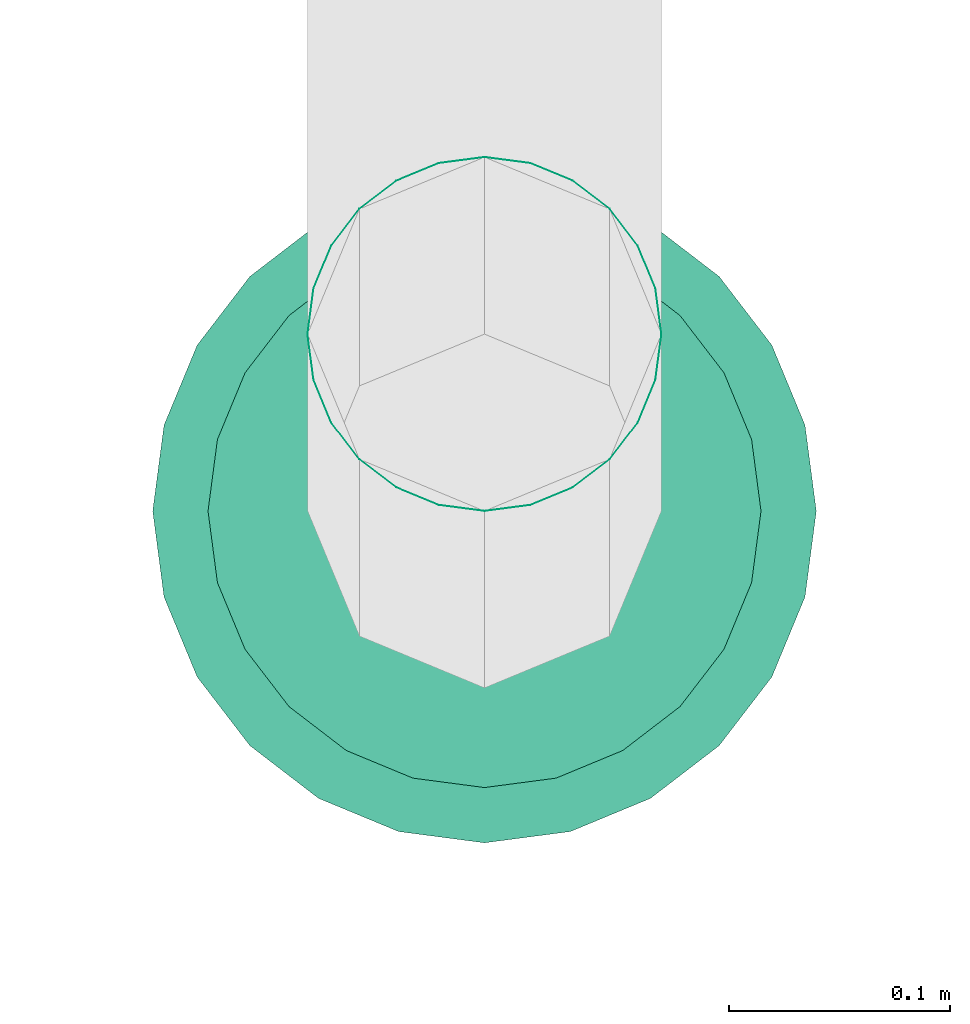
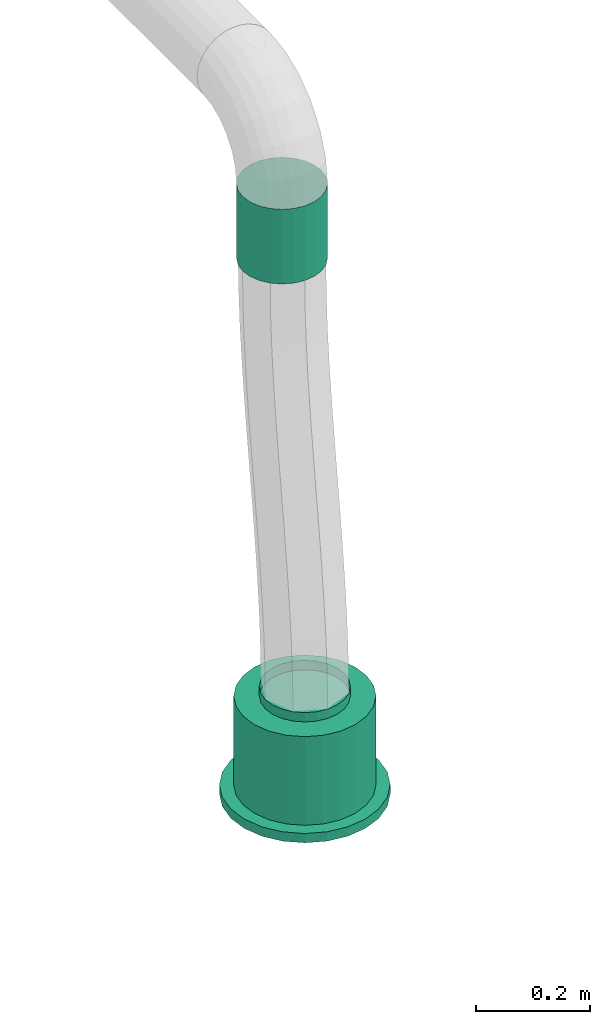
# One storey, part 55 of 374: 1 flow segment, 1 flow terminal.
"""IFC2X3 building model written with IfcOpenShell, lengths in metres."""

from ifc_helpers import new_model, si_unit, direction, origin, place, context, subcontext, project, spatial, open_shell, surface_model, source, transform, mapped, element, save


model = new_model("IFC2X3")

# Units and contexts
model_context = context("Model", 3, precision=1e-05, world=origin(), true_north=direction((-0.4480736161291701, 0.8939966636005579)))
body_context = subcontext(model_context, "Body", "Model", "MODEL_VIEW")
ifc_project = project(units=[si_unit("LENGTHUNIT", "METRE"), si_unit("AREAUNIT", "SQUARE_METRE"), si_unit("VOLUMEUNIT", "CUBIC_METRE"), si_unit("PLANEANGLEUNIT", "RADIAN"), si_unit("THERMODYNAMICTEMPERATUREUNIT", "KELVIN"), si_unit("MASSUNIT", "GRAM", prefix="KILO"), si_unit("TIMEUNIT", "SECOND")], contexts=[model_context])

# Site, building, storey
site_placement = place(None, origin())
site = spatial("IfcSite", under=ifc_project, at=site_placement, Name="Site 1", CompositionType="ELEMENT")
building_placement = place(site_placement, origin())
building = spatial("IfcBuilding", under=site, at=building_placement, Name="Undefined", CompositionType="ELEMENT")
storey_placement = place(building_placement, origin())
storey = spatial("IfcBuildingStorey", under=building, at=storey_placement, Name="Rez de chauss\x8ee", CompositionType="ELEMENT", Elevation=0.0)

# Flow terminal
shared_shape_1 = source(origin(), body_context, "Body", "SurfaceModel", [
    surface_model("IfcFaceBasedSurfaceModel", [(0.0, 0.0, 0.0), (0.03915785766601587, 0.0, 0.0), (0.03915785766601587, 0.020000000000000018, 0.0), (3.552713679e-15, 0.020000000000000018, 0.0), (0.07698144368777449, 0.0, -0.010134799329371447), (0.07698144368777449, 0.020000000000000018, -0.010134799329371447), (0.11089314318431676, 0.0, -0.02971372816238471), (0.11089314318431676, 0.020000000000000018, -0.02971372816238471), (0.13858192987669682, 0.0, -0.05740251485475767), (0.13858192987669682, 0.020000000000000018, -0.05740251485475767), (0.15816085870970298, 0.0, -0.09131421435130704), (0.15816085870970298, 0.020000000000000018, -0.09131421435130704), (0.16829565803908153, 0.0, -0.12913780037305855), (0.16829565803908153, 0.020000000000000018, -0.12913780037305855), (0.16829565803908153, 0.0, -0.16829565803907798), (0.16829565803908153, 0.020000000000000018, -0.16829565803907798), (0.15816085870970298, 0.0, -0.20611924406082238), (0.15816085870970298, 0.020000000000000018, -0.20611924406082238), (0.13858192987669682, 0.0, -0.24003094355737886), (0.13858192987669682, 0.020000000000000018, -0.24003094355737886), (0.11089314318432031, 0.0, -0.2677197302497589), (0.11089314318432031, 0.020000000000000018, -0.2677197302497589), (0.07698144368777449, 0.0, -0.2872986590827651), (0.07698144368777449, 0.020000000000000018, -0.2872986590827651), (0.039157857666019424, 0.0, -0.29743345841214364), (0.039157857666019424, 0.020000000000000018, -0.29743345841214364), (3.552713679e-15, 0.0, -0.29743345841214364), (3.552713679e-15, 0.020000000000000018, -0.29743345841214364), (-0.03782358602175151, 0.0, -0.2872986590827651), (-0.03782358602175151, 0.020000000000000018, -0.2872986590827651), (-0.07173528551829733, 0.0, -0.2677197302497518), (-0.07173528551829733, 0.020000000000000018, -0.2677197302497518), (-0.0994240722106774, 0.0, -0.24003094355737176), (-0.0994240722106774, 0.020000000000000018, -0.24003094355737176), (-0.11900300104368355, 0.0, -0.2061192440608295), (-0.11900300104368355, 0.020000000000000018, -0.2061192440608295), (-0.1291378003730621, 0.0, -0.16829565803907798), (-0.1291378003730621, 0.020000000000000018, -0.16829565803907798), (-0.1291378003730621, 0.0, -0.12913780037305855), (-0.1291378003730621, 0.020000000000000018, -0.12913780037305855), (-0.11900300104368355, 0.0, -0.09131421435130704), (-0.11900300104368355, 0.020000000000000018, -0.09131421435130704), (-0.0994240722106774, 0.0, -0.05740251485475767), (-0.0994240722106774, 0.020000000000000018, -0.05740251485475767), (-0.07173528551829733, 0.0, -0.029713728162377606), (-0.07173528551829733, 0.020000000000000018, -0.029713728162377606), (-0.03782358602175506, 0.0, -0.010134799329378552), (-0.03782358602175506, 0.020000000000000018, -0.010134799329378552), (0.019578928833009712, 0.0, -0.14871672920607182), (0.019578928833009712, 0.020000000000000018, -0.14871672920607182), (0.003263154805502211, 0.020000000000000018, -0.02478612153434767), (0.035894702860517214, 0.020000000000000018, -0.02478612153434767), (0.035894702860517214, 0.20999999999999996, -0.02478612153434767), (0.003263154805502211, 0.20999999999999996, -0.02478612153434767), (0.06741435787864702, 0.020000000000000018, -0.033231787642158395), (0.06741435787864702, 0.20999999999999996, -0.033231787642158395), (0.0956741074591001, 0.020000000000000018, -0.04954756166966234), (0.0956741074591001, 0.20999999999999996, -0.04954756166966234), (0.11874809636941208, 0.020000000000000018, -0.07262155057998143), (0.11874809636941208, 0.20999999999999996, -0.07262155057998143), (0.13506387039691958, 0.020000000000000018, -0.10088130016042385), (0.13506387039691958, 0.20999999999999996, -0.10088130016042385), (0.1435095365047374, 0.020000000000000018, -0.13240095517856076), (0.1435095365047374, 0.20999999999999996, -0.13240095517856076), (0.1435095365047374, 0.020000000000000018, -0.16503250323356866), (0.1435095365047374, 0.20999999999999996, -0.16503250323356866), (0.13506387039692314, 0.020000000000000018, -0.19655215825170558), (0.13506387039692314, 0.20999999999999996, -0.19655215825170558), (0.11874809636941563, 0.020000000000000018, -0.2248119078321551), (0.11874809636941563, 0.20999999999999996, -0.2248119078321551), (0.09567410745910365, 0.020000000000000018, -0.24788589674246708), (0.09567410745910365, 0.20999999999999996, -0.24788589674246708), (0.06741435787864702, 0.020000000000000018, -0.26420167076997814), (0.06741435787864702, 0.20999999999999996, -0.26420167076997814), (0.035894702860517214, 0.020000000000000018, -0.27264733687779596), (0.035894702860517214, 0.20999999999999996, -0.27264733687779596), (0.0032631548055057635, 0.020000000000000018, -0.27264733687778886), (0.0032631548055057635, 0.20999999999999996, -0.27264733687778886), (-0.028256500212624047, 0.020000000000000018, -0.26420167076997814), (-0.028256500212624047, 0.20999999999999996, -0.26420167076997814), (-0.05651624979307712, 0.020000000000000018, -0.2478858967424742), (-0.05651624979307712, 0.20999999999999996, -0.2478858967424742), (-0.07959023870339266, 0.020000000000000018, -0.2248119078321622), (-0.07959023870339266, 0.20999999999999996, -0.2248119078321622), (-0.09590601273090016, 0.020000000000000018, -0.19655215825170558), (-0.09590601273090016, 0.20999999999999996, -0.19655215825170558), (-0.10435167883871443, 0.020000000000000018, -0.16503250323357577), (-0.10435167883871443, 0.20999999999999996, -0.16503250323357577), (-0.10435167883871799, 0.020000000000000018, -0.13240095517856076), (-0.10435167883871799, 0.20999999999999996, -0.13240095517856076), (-0.09590601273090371, 0.020000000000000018, -0.10088130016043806), (-0.09590601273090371, 0.20999999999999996, -0.10088130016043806), (-0.07959023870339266, 0.020000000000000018, -0.07262155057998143), (-0.07959023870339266, 0.20999999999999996, -0.07262155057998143), (-0.056516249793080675, 0.020000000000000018, -0.04954756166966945), (-0.056516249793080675, 0.20999999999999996, -0.04954756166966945), (-0.028256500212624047, 0.020000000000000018, -0.033231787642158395), (-0.028256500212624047, 0.20999999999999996, -0.033231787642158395), (0.019578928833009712, 0.20999999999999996, -0.14871672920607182), (0.009136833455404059, 0.20999999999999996, -0.06940114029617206), (0.030021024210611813, 0.20999999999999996, -0.06940114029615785), (0.030021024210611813, 0.22999999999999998, -0.06940114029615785), (0.009136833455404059, 0.22999999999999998, -0.06940114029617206), (0.05019360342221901, 0.20999999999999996, -0.07480636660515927), (0.05019360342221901, 0.22999999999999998, -0.07480636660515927), (0.06827984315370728, 0.20999999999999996, -0.08524846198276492), (0.06827984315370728, 0.22999999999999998, -0.08524846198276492), (0.0830471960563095, 0.20999999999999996, -0.10001581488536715), (0.0830471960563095, 0.22999999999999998, -0.10001581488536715), (0.0934892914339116, 0.20999999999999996, -0.11810205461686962), (0.0934892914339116, 0.22999999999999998, -0.11810205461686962), (0.09889451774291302, 0.20999999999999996, -0.13827463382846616), (0.09889451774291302, 0.22999999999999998, -0.13827463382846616), (0.09889451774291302, 0.20999999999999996, -0.15915882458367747), (0.09889451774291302, 0.22999999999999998, -0.15915882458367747), (0.09348929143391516, 0.20999999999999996, -0.179331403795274), (0.09348929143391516, 0.22999999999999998, -0.179331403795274), (0.0830471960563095, 0.20999999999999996, -0.19741764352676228), (0.0830471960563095, 0.22999999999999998, -0.19741764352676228), (0.06827984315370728, 0.20999999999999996, -0.2121849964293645), (0.06827984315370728, 0.22999999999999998, -0.2121849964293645), (0.05019360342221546, 0.20999999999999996, -0.22262709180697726), (0.05019360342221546, 0.22999999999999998, -0.22262709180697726), (0.030021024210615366, 0.20999999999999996, -0.22803231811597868), (0.030021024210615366, 0.22999999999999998, -0.22803231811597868), (0.009136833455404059, 0.20999999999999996, -0.22803231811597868), (0.009136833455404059, 0.22999999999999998, -0.22803231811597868), (-0.011035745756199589, 0.20999999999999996, -0.22262709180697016), (-0.011035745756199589, 0.22999999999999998, -0.22262709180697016), (-0.0291219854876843, 0.20999999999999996, -0.2121849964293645), (-0.0291219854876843, 0.22999999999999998, -0.2121849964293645), (-0.043889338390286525, 0.20999999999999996, -0.19741764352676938), (-0.043889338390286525, 0.22999999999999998, -0.19741764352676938), (-0.05433143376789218, 0.20999999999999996, -0.17933140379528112), (-0.05433143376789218, 0.22999999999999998, -0.17933140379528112), (-0.05973666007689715, 0.20999999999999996, -0.15915882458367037), (-0.05973666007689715, 0.22999999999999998, -0.15915882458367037), (-0.0597366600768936, 0.20999999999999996, -0.13827463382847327), (-0.0597366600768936, 0.22999999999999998, -0.13827463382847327), (-0.05433143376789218, 0.20999999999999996, -0.11810205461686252), (-0.05433143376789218, 0.22999999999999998, -0.11810205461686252), (-0.043889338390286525, 0.20999999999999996, -0.10001581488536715), (-0.043889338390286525, 0.22999999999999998, -0.10001581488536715), (-0.02912198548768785, 0.20999999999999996, -0.08524846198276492), (-0.02912198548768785, 0.22999999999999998, -0.08524846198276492), (-0.011035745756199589, 0.20999999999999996, -0.07480636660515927), (-0.011035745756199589, 0.22999999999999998, -0.07480636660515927)], [open_shell([[[0, 1, 2, 3]], [[1, 4, 5, 2]], [[4, 6, 7, 5]], [[6, 8, 9, 7]], [[8, 10, 11, 9]], [[10, 12, 13, 11]], [[12, 14, 15, 13]], [[14, 16, 17, 15]], [[16, 18, 19, 17]], [[18, 20, 21, 19]], [[20, 22, 23, 21]], [[22, 24, 25, 23]], [[24, 26, 27, 25]], [[26, 28, 29, 27]], [[28, 30, 31, 29]], [[30, 32, 33, 31]], [[32, 34, 35, 33]], [[34, 36, 37, 35]], [[36, 38, 39, 37]], [[38, 40, 41, 39]], [[40, 42, 43, 41]], [[42, 44, 45, 43]], [[44, 46, 47, 45]], [[46, 0, 3, 47]], [[48, 1, 0]], [[48, 4, 1]], [[48, 6, 4]], [[48, 8, 6]], [[48, 10, 8]], [[48, 12, 10]], [[48, 14, 12]], [[48, 16, 14]], [[48, 18, 16]], [[48, 20, 18]], [[48, 22, 20]], [[48, 24, 22]], [[48, 26, 24]], [[48, 28, 26]], [[48, 30, 28]], [[48, 32, 30]], [[48, 34, 32]], [[48, 36, 34]], [[48, 38, 36]], [[48, 40, 38]], [[48, 42, 40]], [[48, 44, 42]], [[48, 46, 44]], [[48, 0, 46]], [[49, 47, 3]], [[49, 45, 47]], [[49, 43, 45]], [[49, 41, 43]], [[49, 39, 41]], [[49, 37, 39]], [[49, 35, 37]], [[49, 33, 35]], [[49, 31, 33]], [[49, 29, 31]], [[49, 27, 29]], [[49, 25, 27]], [[49, 23, 25]], [[49, 21, 23]], [[49, 19, 21]], [[49, 17, 19]], [[49, 15, 17]], [[49, 13, 15]], [[49, 11, 13]], [[49, 9, 11]], [[49, 7, 9]], [[49, 5, 7]], [[49, 2, 5]], [[49, 3, 2]], [[50, 51, 52, 53]], [[51, 54, 55, 52]], [[54, 56, 57, 55]], [[56, 58, 59, 57]], [[58, 60, 61, 59]], [[60, 62, 63, 61]], [[62, 64, 65, 63]], [[64, 66, 67, 65]], [[66, 68, 69, 67]], [[68, 70, 71, 69]], [[70, 72, 73, 71]], [[72, 74, 75, 73]], [[74, 76, 77, 75]], [[76, 78, 79, 77]], [[78, 80, 81, 79]], [[80, 82, 83, 81]], [[82, 84, 85, 83]], [[84, 86, 87, 85]], [[86, 88, 89, 87]], [[88, 90, 91, 89]], [[90, 92, 93, 91]], [[92, 94, 95, 93]], [[94, 96, 97, 95]], [[96, 50, 53, 97]], [[49, 51, 50]], [[49, 54, 51]], [[49, 56, 54]], [[49, 58, 56]], [[49, 60, 58]], [[49, 62, 60]], [[49, 64, 62]], [[49, 66, 64]], [[49, 68, 66]], [[49, 70, 68]], [[49, 72, 70]], [[49, 74, 72]], [[49, 76, 74]], [[49, 78, 76]], [[49, 80, 78]], [[49, 82, 80]], [[49, 84, 82]], [[49, 86, 84]], [[49, 88, 86]], [[49, 90, 88]], [[49, 92, 90]], [[49, 94, 92]], [[49, 96, 94]], [[49, 50, 96]], [[98, 97, 53]], [[98, 95, 97]], [[98, 93, 95]], [[98, 91, 93]], [[98, 89, 91]], [[98, 87, 89]], [[98, 85, 87]], [[98, 83, 85]], [[98, 81, 83]], [[98, 79, 81]], [[98, 77, 79]], [[98, 75, 77]], [[98, 73, 75]], [[98, 71, 73]], [[98, 69, 71]], [[98, 67, 69]], [[98, 65, 67]], [[98, 63, 65]], [[98, 61, 63]], [[98, 59, 61]], [[98, 57, 59]], [[98, 55, 57]], [[98, 52, 55]], [[98, 53, 52]], [[99, 100, 101, 102]], [[100, 103, 104, 101]], [[103, 105, 106, 104]], [[105, 107, 108, 106]], [[107, 109, 110, 108]], [[109, 111, 112, 110]], [[111, 113, 114, 112]], [[113, 115, 116, 114]], [[115, 117, 118, 116]], [[117, 119, 120, 118]], [[119, 121, 122, 120]], [[121, 123, 124, 122]], [[123, 125, 126, 124]], [[125, 127, 128, 126]], [[127, 129, 130, 128]], [[129, 131, 132, 130]], [[131, 133, 134, 132]], [[133, 135, 136, 134]], [[135, 137, 138, 136]], [[137, 139, 140, 138]], [[139, 141, 142, 140]], [[141, 143, 144, 142]], [[143, 145, 146, 144]], [[145, 99, 102, 146]]])]),
])
flow_terminal_placement = place(storey_placement, origin())
element("IfcFlowTerminal", 1, at=flow_terminal_placement, inside=storey, Name="Air diffuseur - bouche", ObjectType="Air diffuseur - bouche", context=body_context, shape_type="MappedRepresentation", body=[
    mapped(shared_shape_1, transform((30.290000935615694, 2.0299997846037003, 2.38), x_axis=(-0.9914448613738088, -0.13052619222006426, 0.0), y_axis=(0.0, 0.0, 1.0), z_axis=(-0.13052619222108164, 0.9914448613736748, 0.0))),
])

# Flow segment
shared_shape_2 = source(origin(), body_context, "Body", "SurfaceModel", [
    surface_model("IfcFaceBasedSurfaceModel", [(0.0, 0.020884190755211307, 0.0), (0.0, 0.0, 0.0), (0.16000000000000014, 0.0, -4.4408921e-16), (0.16000000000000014, 0.0208841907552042, -4.4408921e-16), (0.0, -0.020172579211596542, -0.005405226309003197), (0.16000000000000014, -0.020172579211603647, -0.005405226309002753), (0.0, -0.03825881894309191, -0.015847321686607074), (0.16000000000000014, -0.03825881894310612, -0.015847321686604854), (0.0, -0.05302617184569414, -0.0306146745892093), (0.16000000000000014, -0.05302617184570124, -0.03061467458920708), (0.0, -0.06346826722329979, -0.04870091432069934), (0.16000000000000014, -0.0634682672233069, -0.04870091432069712), (0.0, -0.06887349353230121, -0.06887349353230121), (0.16000000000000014, -0.06887349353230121, -0.06887349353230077), (0.0, -0.06887349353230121, -0.08975768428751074), (0.16000000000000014, -0.06887349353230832, -0.08975768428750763), (0.0, -0.06346826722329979, -0.10993026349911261), (0.16000000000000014, -0.0634682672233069, -0.10993026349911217), (0.0, -0.05302617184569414, -0.12801650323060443), (0.16000000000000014, -0.05302617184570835, -0.1280165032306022), (0.0, -0.038258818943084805, -0.14278385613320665), (0.16000000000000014, -0.03825881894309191, -0.14278385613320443), (0.0, -0.020172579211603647, -0.15322595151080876), (0.16000000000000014, -0.020172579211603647, -0.1532259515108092), (0.0, 7.105427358e-15, -0.15863117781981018), (0.16000000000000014, -7.105427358e-15, -0.15863117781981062), (0.0, 0.020884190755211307, -0.15863117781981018), (0.16000000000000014, 0.0208841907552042, -0.15863117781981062), (0.0, 0.04105676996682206, -0.15322595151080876), (0.16000000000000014, 0.04105676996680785, -0.1532259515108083), (0.0, 0.05914300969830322, -0.1427838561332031), (0.16000000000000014, 0.05914300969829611, -0.14278385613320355), (0.0, 0.07391036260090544, -0.12801650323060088), (0.16000000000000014, 0.07391036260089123, -0.1280165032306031), (0.0, 0.0843524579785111, -0.10993026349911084), (0.16000000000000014, 0.08435245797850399, -0.10993026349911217), (0.0, 0.08975768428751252, -0.08975768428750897), (0.16000000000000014, 0.08975768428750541, -0.08975768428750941), (0.0, 0.08975768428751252, -0.06887349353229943), (0.16000000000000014, 0.08975768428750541, -0.06887349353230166), (0.0, 0.0843524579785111, -0.048700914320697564), (0.16000000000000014, 0.08435245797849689, -0.04870091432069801), (0.0, 0.07391036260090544, -0.030614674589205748), (0.16000000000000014, 0.07391036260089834, -0.03061467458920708), (0.0, 0.05914300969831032, -0.015847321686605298), (0.16000000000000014, 0.05914300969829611, -0.01584732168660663), (0.0, 0.04105676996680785, -0.005405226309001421), (0.16000000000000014, 0.04105676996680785, -0.005405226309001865)], [open_shell([[[0, 1, 2, 3]], [[1, 4, 5, 2]], [[4, 6, 7, 5]], [[6, 8, 9, 7]], [[8, 10, 11, 9]], [[10, 12, 13, 11]], [[12, 14, 15, 13]], [[14, 16, 17, 15]], [[16, 18, 19, 17]], [[18, 20, 21, 19]], [[20, 22, 23, 21]], [[22, 24, 25, 23]], [[24, 26, 27, 25]], [[26, 28, 29, 27]], [[28, 30, 31, 29]], [[30, 32, 33, 31]], [[32, 34, 35, 33]], [[34, 36, 37, 35]], [[36, 38, 39, 37]], [[38, 40, 41, 39]], [[40, 42, 43, 41]], [[42, 44, 45, 43]], [[44, 46, 47, 45]], [[46, 0, 3, 47]]])]),
])
flow_segment_placement = place(storey_placement, origin())
element("IfcFlowSegment", 2, at=flow_segment_placement, inside=storey, Name="Tube", ObjectType="Tube", context=body_context, shape_type="MappedRepresentation", body=[
    mapped(shared_shape_2, transform((30.269295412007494, 2.0372738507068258, 3.4800000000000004), x_axis=(0.0, 0.0, 1.0), y_axis=(0.9914448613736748, 0.13052619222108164, 0.0), z_axis=(-0.13052619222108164, 0.9914448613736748, 0.0))),
])

save(model, "model.ifc")
